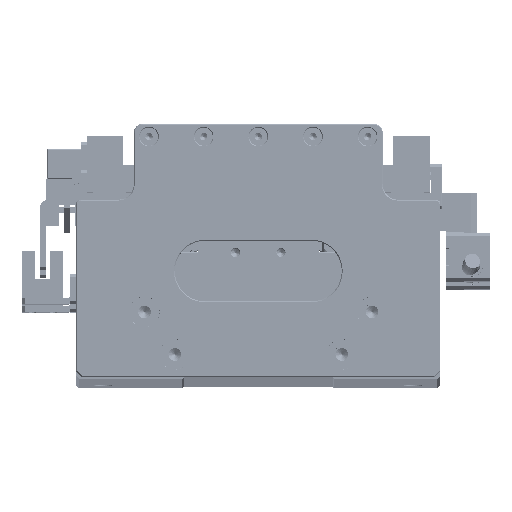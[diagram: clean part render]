
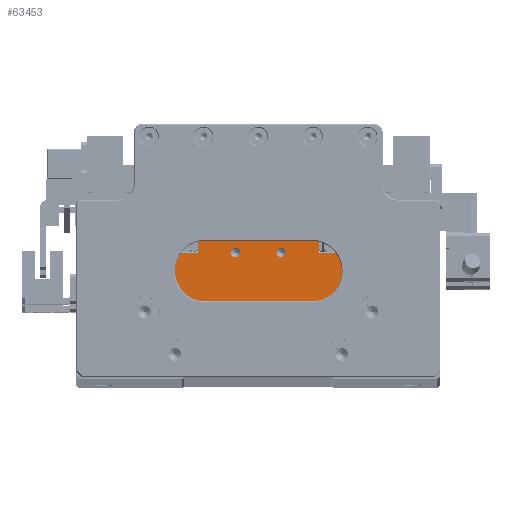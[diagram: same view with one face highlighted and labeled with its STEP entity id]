
A CAD part, top view. The second image highlights one B-rep face of the part: STEP entity #63453.
In plain terms, the highlighted planar face has unit normal (0, 0, 1).
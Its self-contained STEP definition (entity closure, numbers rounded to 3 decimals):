
#1592 = DIRECTION ( 'NONE',  ( 0., 1., 0. ) ) ;
#1638 = ORIENTED_EDGE ( 'NONE', *, *, #84874, .F. ) ;
#2248 = AXIS2_PLACEMENT_3D ( 'NONE', #69405, #6108, #80010 ) ;
#3535 = CARTESIAN_POINT ( 'NONE',  ( -102.625, 71.48, 462.722 ) ) ;
#6108 = DIRECTION ( 'NONE',  ( 0., 0., 1. ) ) ;
#7304 = CIRCLE ( 'NONE', #2248, 1.525 ) ;
#7979 = CARTESIAN_POINT ( 'NONE',  ( -112.525, 71.48, 462.722 ) ) ;
#9573 = EDGE_LOOP ( 'NONE', ( #1638, #120248 ) ) ;
#9814 = DIRECTION ( 'NONE',  ( 0., 0., 1. ) ) ;
#10181 = DIRECTION ( 'NONE',  ( 1., 0., 0. ) ) ;
#11846 = VECTOR ( 'NONE', #17950, 1000. ) ;
#16604 = CIRCLE ( 'NONE', #97918, 1.525 ) ;
#17950 = DIRECTION ( 'NONE',  ( 1., 0., 0. ) ) ;
#18048 = CARTESIAN_POINT ( 'NONE',  ( -52.725, 78.98, 462.722 ) ) ;
#20840 = FACE_OUTER_BOUND ( 'NONE', #77824, .T. ) ;
#21373 = DIRECTION ( 'NONE',  ( 0., 0., 1. ) ) ;
#22193 = VERTEX_POINT ( 'NONE', #104634 ) ;
#22742 = CARTESIAN_POINT ( 'NONE',  ( -90.125, 71.48, 462.722 ) ) ;
#25251 = EDGE_CURVE ( 'NONE', #134869, #83708, #126569, .T. ) ;
#25714 = DIRECTION ( 'NONE',  ( 0., 0., -1. ) ) ;
#26338 = DIRECTION ( 'NONE',  ( 0., -1., 0. ) ) ;
#26687 = ORIENTED_EDGE ( 'NONE', *, *, #46285, .T. ) ;
#27299 = VERTEX_POINT ( 'NONE', #42138 ) ;
#29901 = AXIS2_PLACEMENT_3D ( 'NONE', #22742, #25714, #99511 ) ;
#30965 = DIRECTION ( 'NONE',  ( 0., -1., 0. ) ) ;
#30989 = EDGE_CURVE ( 'NONE', #88075, #134869, #36507, .T. ) ;
#32841 = CARTESIAN_POINT ( 'NONE',  ( -76.65, 79.08, 462.722 ) ) ;
#32845 = ORIENTED_EDGE ( 'NONE', *, *, #110541, .F. ) ;
#36507 = LINE ( 'NONE', #108119, #64514 ) ;
#36665 = ORIENTED_EDGE ( 'NONE', *, *, #93705, .F. ) ;
#38396 = AXIS2_PLACEMENT_3D ( 'NONE', #104648, #41479, #115170 ) ;
#38427 = EDGE_CURVE ( 'NONE', #83708, #90024, #132825, .T. ) ;
#38834 = CARTESIAN_POINT ( 'NONE',  ( -62.625, 78.98, 462.722 ) ) ;
#41479 = DIRECTION ( 'NONE',  ( 0., 0., 1. ) ) ;
#41982 = EDGE_CURVE ( 'NONE', #95326, #27299, #16604, .T. ) ;
#42138 = CARTESIAN_POINT ( 'NONE',  ( -73.6, 79.08, 462.722 ) ) ;
#43561 = PLANE ( 'NONE',  #29901 ) ;
#43688 = LINE ( 'NONE', #7979, #71750 ) ;
#44613 = VERTEX_POINT ( 'NONE', #73719 ) ;
#46285 = EDGE_CURVE ( 'NONE', #82064, #22193, #64714, .T. ) ;
#48444 = DIRECTION ( 'NONE',  ( 1., 0., 0. ) ) ;
#49934 = VERTEX_POINT ( 'NONE', #96659 ) ;
#56000 = EDGE_CURVE ( 'NONE', #90024, #22193, #66136, .T. ) ;
#58227 = VERTEX_POINT ( 'NONE', #119180 ) ;
#59002 = VECTOR ( 'NONE', #1592, 1000. ) ;
#61289 = ORIENTED_EDGE ( 'NONE', *, *, #56000, .F. ) ;
#63387 = VERTEX_POINT ( 'NONE', #63409 ) ;
#63409 = CARTESIAN_POINT ( 'NONE',  ( -112.525, 78.98, 462.722 ) ) ;
#63453 = ADVANCED_FACE ( 'NONE', ( #20840, #73680, #80301 ), #43561, .F. ) ;
#64514 = VECTOR ( 'NONE', #76818, 1000. ) ;
#64714 = LINE ( 'NONE', #81133, #11846 ) ;
#64776 = LINE ( 'NONE', #115305, #114221 ) ;
#66136 = LINE ( 'NONE', #78950, #69517 ) ;
#68653 = CARTESIAN_POINT ( 'NONE',  ( -112.525, 59.78, 462.722 ) ) ;
#69405 = CARTESIAN_POINT ( 'NONE',  ( -90.125, 79.08, 462.722 ) ) ;
#69517 = VECTOR ( 'NONE', #26338, 1000. ) ;
#71750 = VECTOR ( 'NONE', #81842, 1000. ) ;
#73067 = CARTESIAN_POINT ( 'NONE',  ( -75.125, 79.08, 462.722 ) ) ;
#73680 = FACE_BOUND ( 'NONE', #9573, .T. ) ;
#73719 = CARTESIAN_POINT ( 'NONE',  ( -91.65, 79.08, 462.722 ) ) ;
#75226 = ORIENTED_EDGE ( 'NONE', *, *, #108408, .F. ) ;
#76818 = DIRECTION ( 'NONE',  ( 1., 0., 0. ) ) ;
#77824 = EDGE_LOOP ( 'NONE', ( #116491, #36665, #26687, #61289, #96289, #85695, #92006, #75226 ) ) ;
#78950 = CARTESIAN_POINT ( 'NONE',  ( -52.725, 71.48, 462.722 ) ) ;
#80010 = DIRECTION ( 'NONE',  ( 1., 0., 0. ) ) ;
#80301 = FACE_BOUND ( 'NONE', #94959, .T. ) ;
#81133 = CARTESIAN_POINT ( 'NONE',  ( -90.125, 59.78, 462.722 ) ) ;
#81784 = EDGE_CURVE ( 'NONE', #44613, #49934, #100352, .T. ) ;
#81842 = DIRECTION ( 'NONE',  ( 0., 1., 0. ) ) ;
#82064 = VERTEX_POINT ( 'NONE', #68653 ) ;
#83524 = CARTESIAN_POINT ( 'NONE',  ( -62.625, 71.48, 462.722 ) ) ;
#83655 = DIRECTION ( 'NONE',  ( 1., 0., 0. ) ) ;
#83708 = VERTEX_POINT ( 'NONE', #38834 ) ;
#84555 = CARTESIAN_POINT ( 'NONE',  ( -75.125, 79.08, 462.722 ) ) ;
#84874 = EDGE_CURVE ( 'NONE', #27299, #95326, #89663, .T. ) ;
#85695 = ORIENTED_EDGE ( 'NONE', *, *, #25251, .F. ) ;
#87009 = LINE ( 'NONE', #3535, #59002 ) ;
#88075 = VERTEX_POINT ( 'NONE', #89131 ) ;
#89131 = CARTESIAN_POINT ( 'NONE',  ( -102.625, 82.98, 462.722 ) ) ;
#89663 = CIRCLE ( 'NONE', #129603, 1.525 ) ;
#90024 = VERTEX_POINT ( 'NONE', #18048 ) ;
#90357 = CARTESIAN_POINT ( 'NONE',  ( -90.125, 78.98, 462.722 ) ) ;
#92006 = ORIENTED_EDGE ( 'NONE', *, *, #30989, .F. ) ;
#93705 = EDGE_CURVE ( 'NONE', #82064, #63387, #43688, .T. ) ;
#94959 = EDGE_LOOP ( 'NONE', ( #32845, #106340 ) ) ;
#95152 = DIRECTION ( 'NONE',  ( 1., 0., 0. ) ) ;
#95326 = VERTEX_POINT ( 'NONE', #32841 ) ;
#96289 = ORIENTED_EDGE ( 'NONE', *, *, #38427, .F. ) ;
#96659 = CARTESIAN_POINT ( 'NONE',  ( -88.6, 79.08, 462.722 ) ) ;
#97918 = AXIS2_PLACEMENT_3D ( 'NONE', #84555, #21373, #95152 ) ;
#99511 = DIRECTION ( 'NONE',  ( -1., 0., 0. ) ) ;
#100352 = CIRCLE ( 'NONE', #38396, 1.525 ) ;
#104634 = CARTESIAN_POINT ( 'NONE',  ( -52.725, 59.78, 462.722 ) ) ;
#104648 = CARTESIAN_POINT ( 'NONE',  ( -90.125, 79.08, 462.722 ) ) ;
#104863 = VECTOR ( 'NONE', #48444, 1000. ) ;
#106340 = ORIENTED_EDGE ( 'NONE', *, *, #81784, .F. ) ;
#108119 = CARTESIAN_POINT ( 'NONE',  ( -90.125, 82.98, 462.722 ) ) ;
#108408 = EDGE_CURVE ( 'NONE', #58227, #88075, #87009, .T. ) ;
#110541 = EDGE_CURVE ( 'NONE', #49934, #44613, #7304, .T. ) ;
#114221 = VECTOR ( 'NONE', #10181, 1000. ) ;
#115170 = DIRECTION ( 'NONE',  ( 1., 0., 0. ) ) ;
#115305 = CARTESIAN_POINT ( 'NONE',  ( -90.125, 78.98, 462.722 ) ) ;
#116491 = ORIENTED_EDGE ( 'NONE', *, *, #119064, .F. ) ;
#119064 = EDGE_CURVE ( 'NONE', #63387, #58227, #64776, .T. ) ;
#119180 = CARTESIAN_POINT ( 'NONE',  ( -102.625, 78.98, 462.722 ) ) ;
#120248 = ORIENTED_EDGE ( 'NONE', *, *, #41982, .F. ) ;
#123286 = VECTOR ( 'NONE', #30965, 1000. ) ;
#125928 = CARTESIAN_POINT ( 'NONE',  ( -62.625, 82.98, 462.722 ) ) ;
#126569 = LINE ( 'NONE', #83524, #123286 ) ;
#129603 = AXIS2_PLACEMENT_3D ( 'NONE', #73067, #9814, #83655 ) ;
#132825 = LINE ( 'NONE', #90357, #104863 ) ;
#134869 = VERTEX_POINT ( 'NONE', #125928 ) ;
